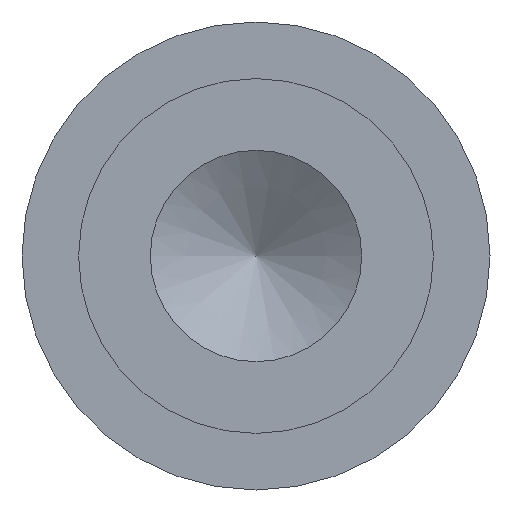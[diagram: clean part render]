
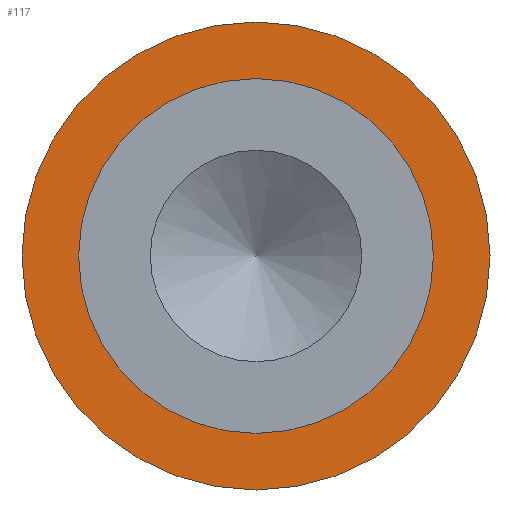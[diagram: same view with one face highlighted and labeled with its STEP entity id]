
A CAD part, left-side view. The second image highlights one B-rep face of the part: STEP entity #117.
In plain terms, the highlighted planar face has unit normal (-1, 0, 0).
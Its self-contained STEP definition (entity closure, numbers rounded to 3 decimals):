
#13=PLANE($,#135);
#20=FACE_BOUND($,#49,.T.);
#37=FACE_OUTER_BOUND($,#48,.T.);
#48=EDGE_LOOP($,(#98));
#49=EDGE_LOOP($,(#99));
#65=CIRCLE($,#133,0.597);
#67=CIRCLE($,#136,0.787);
#75=VERTEX_POINT($,#201);
#77=VERTEX_POINT($,#206);
#85=EDGE_CURVE($,#75,#75,#65,.T.);
#87=EDGE_CURVE($,#77,#77,#67,.T.);
#98=ORIENTED_EDGE($,*,*,#87,.F.);
#99=ORIENTED_EDGE($,*,*,#85,.T.);
#117=ADVANCED_FACE($,(#37,#20),#13,.T.);
#133=AXIS2_PLACEMENT_3D($,#202,#161,#162);
#135=AXIS2_PLACEMENT_3D($,#205,#165,#166);
#136=AXIS2_PLACEMENT_3D($,#207,#167,#168);
#161=DIRECTION('center_axis',(1.,0.,0.));
#162=DIRECTION('ref_axis',(0.,1.,0.));
#165=DIRECTION('center_axis',(-1.,0.,0.));
#166=DIRECTION('ref_axis',(0.,0.,1.));
#167=DIRECTION('center_axis',(1.,0.,0.));
#168=DIRECTION('ref_axis',(0.,1.,0.));
#201=CARTESIAN_POINT('',(3.683,0.597,0.));
#202=CARTESIAN_POINT('Origin',(3.683,0.,0.));
#205=CARTESIAN_POINT('Origin',(3.683,0.692,0.));
#206=CARTESIAN_POINT('',(3.683,0.787,0.));
#207=CARTESIAN_POINT('Origin',(3.683,0.,0.));
